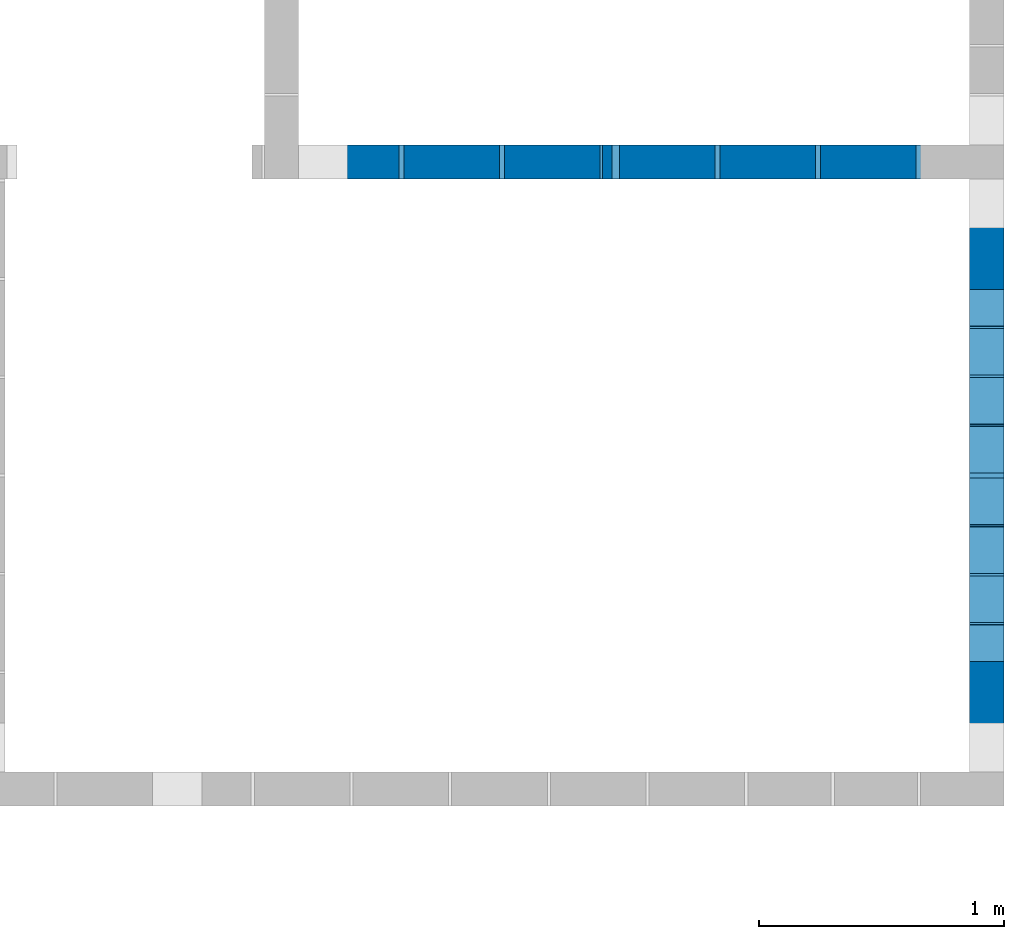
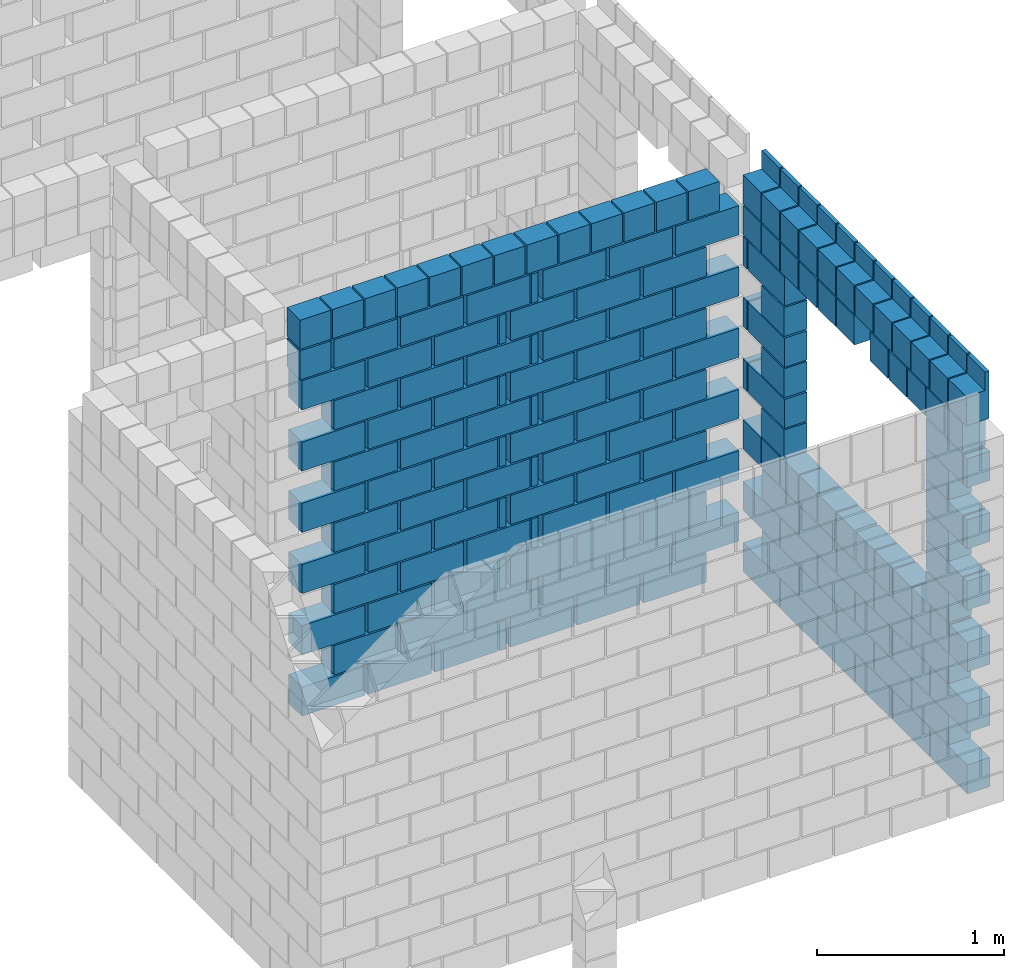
# One storey, part 6 of 12: 2 walls.
"""IFC4 building model written with IfcOpenShell, lengths in centimetres."""

from ifc_helpers import new_model, si_unit, derived_unit, frame, origin, origin_with_axes, origin_2d_with_axis, place, context, project, spatial, rectangle, extrude, element, save


model = new_model("IFC4")

# Units and contexts
model_context = context("Model", 3, precision=1e-05, world=origin_with_axes(), identifier="Body")
ifc_project = project(units=[si_unit("LENGTHUNIT", "METRE", prefix="CENTI"), si_unit("VOLUMEUNIT", "CUBIC_METRE"), si_unit("AREAUNIT", "SQUARE_METRE"), si_unit("POWERUNIT", "WATT"), si_unit("LUMINOUSFLUXUNIT", "LUMEN"), si_unit("ELECTRICCURRENTUNIT", "AMPERE"), si_unit("PRESSUREUNIT", "PASCAL", prefix="KILO"), si_unit("MASSUNIT", "GRAM", prefix="KILO"), si_unit("PLANEANGLEUNIT", "RADIAN"), derived_unit("VOLUMETRICFLOWRATEUNIT", [(si_unit("LENGTHUNIT", "METRE"), 3), (si_unit("TIMEUNIT", "SECOND"), -1)])], contexts=[model_context])

# Site, building, storey
site_placement = place(None, origin_with_axes())
site = spatial("IfcSite", under=ifc_project, at=site_placement)
building_placement = place(site_placement, origin())
building = spatial("IfcBuilding", under=site, at=building_placement)
storey_placement = place(building_placement, origin_with_axes())
storey = spatial("IfcBuildingStorey", under=building, at=storey_placement, Name="PISO", CompositionType="ELEMENT", Elevation=0.0)

# Walls
wall_1_placement = place(storey_placement, frame((692.01, 253.005, 271.0), z_axis=(0.0, 0.0, 1.0), x_axis=(1.0, 0.0, 0.0)))
element("IfcWall", 1, at=wall_1_placement, inside=storey, Name="PAR-PISO-15", context=model_context, shape_type="SolidModel", body=[
    extrude(rectangle(XDim=39.0, YDim=14.0, at=origin_2d_with_axis()), frame((0.0, 100.36071428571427, -271.0), z_axis=(0.0, 0.0, 1.0), x_axis=(0.0, -1.0, 0.0)), (0.0, 0.0, 1.0), 19.0),
    extrude(rectangle(XDim=39.0, YDim=14.0, at=origin_2d_with_axis()), frame((0.0, 60.21642857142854, -271.0), z_axis=(0.0, 0.0, 1.0), x_axis=(0.0, -1.0, 0.0)), (0.0, 0.0, 1.0), 19.0),
    extrude(rectangle(XDim=39.0, YDim=14.0, at=origin_2d_with_axis()), frame((0.0, 20.072142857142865, -271.0), z_axis=(0.0, 0.0, 1.0), x_axis=(0.0, -1.0, 0.0)), (0.0, 0.0, 1.0), 19.0),
    extrude(rectangle(XDim=39.0, YDim=14.0, at=origin_2d_with_axis()), frame((0.0, -20.072142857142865, -271.0), z_axis=(0.0, 0.0, 1.0), x_axis=(0.0, -1.0, 0.0)), (0.0, 0.0, 1.0), 19.0),
    extrude(rectangle(XDim=39.0, YDim=14.0, at=origin_2d_with_axis()), frame((0.0, -60.216428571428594, -271.0), z_axis=(0.0, 0.0, 1.0), x_axis=(0.0, -1.0, 0.0)), (0.0, 0.0, 1.0), 19.0),
    extrude(rectangle(XDim=39.0, YDim=14.0, at=origin_2d_with_axis()), frame((0.0, -100.36071428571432, -271.0), z_axis=(0.0, 0.0, 1.0), x_axis=(0.0, -1.0, 0.0)), (0.0, 0.0, 1.0), 19.0),
    extrude(rectangle(XDim=39.0, YDim=14.0, at=origin_2d_with_axis()), frame((0.0, 80.33666666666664, -251.0), z_axis=(0.0, 0.0, 1.0), x_axis=(0.0, -1.0, 0.0)), (0.0, 0.0, 1.0), 19.0),
    extrude(rectangle(XDim=39.0, YDim=14.0, at=origin_2d_with_axis()), frame((0.0, 40.16833333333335, -251.0), z_axis=(0.0, 0.0, 1.0), x_axis=(0.0, -1.0, 0.0)), (0.0, 0.0, 1.0), 19.0),
    extrude(rectangle(XDim=39.0, YDim=14.0, at=origin_2d_with_axis()), frame((0.0, 0.0, -251.0), z_axis=(0.0, 0.0, 1.0), x_axis=(0.0, -1.0, 0.0)), (0.0, 0.0, 1.0), 19.0),
    extrude(rectangle(XDim=39.0, YDim=14.0, at=origin_2d_with_axis()), frame((0.0, -40.16833333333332, -251.0), z_axis=(0.0, 0.0, 1.0), x_axis=(0.0, -1.0, 0.0)), (0.0, 0.0, 1.0), 19.0),
    extrude(rectangle(XDim=39.0, YDim=14.0, at=origin_2d_with_axis()), frame((0.0, -80.33666666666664, -251.0), z_axis=(0.0, 0.0, 1.0), x_axis=(0.0, -1.0, 0.0)), (0.0, 0.0, 1.0), 19.0),
    extrude(rectangle(XDim=39.0, YDim=14.0, at=origin_2d_with_axis()), frame((0.0, 100.36071428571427, -231.0), z_axis=(0.0, 0.0, 1.0), x_axis=(0.0, -1.0, 0.0)), (0.0, 0.0, 1.0), 19.0),
    extrude(rectangle(XDim=39.0, YDim=14.0, at=origin_2d_with_axis()), frame((0.0, 60.21642857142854, -231.0), z_axis=(0.0, 0.0, 1.0), x_axis=(0.0, -1.0, 0.0)), (0.0, 0.0, 1.0), 19.0),
    extrude(rectangle(XDim=39.0, YDim=14.0, at=origin_2d_with_axis()), frame((0.0, 20.072142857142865, -231.0), z_axis=(0.0, 0.0, 1.0), x_axis=(0.0, -1.0, 0.0)), (0.0, 0.0, 1.0), 19.0),
    extrude(rectangle(XDim=39.0, YDim=14.0, at=origin_2d_with_axis()), frame((0.0, -20.072142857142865, -231.0), z_axis=(0.0, 0.0, 1.0), x_axis=(0.0, -1.0, 0.0)), (0.0, 0.0, 1.0), 19.0),
    extrude(rectangle(XDim=39.0, YDim=14.0, at=origin_2d_with_axis()), frame((0.0, -60.216428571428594, -231.0), z_axis=(0.0, 0.0, 1.0), x_axis=(0.0, -1.0, 0.0)), (0.0, 0.0, 1.0), 19.0),
    extrude(rectangle(XDim=39.0, YDim=14.0, at=origin_2d_with_axis()), frame((0.0, -100.36071428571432, -231.0), z_axis=(0.0, 0.0, 1.0), x_axis=(0.0, -1.0, 0.0)), (0.0, 0.0, 1.0), 19.0),
    extrude(rectangle(XDim=39.0, YDim=14.0, at=origin_2d_with_axis()), frame((0.0, 80.33666666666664, -211.0), z_axis=(0.0, 0.0, 1.0), x_axis=(0.0, -1.0, 0.0)), (0.0, 0.0, 1.0), 19.0),
    extrude(rectangle(XDim=39.0, YDim=14.0, at=origin_2d_with_axis()), frame((0.0, 40.16833333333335, -211.0), z_axis=(0.0, 0.0, 1.0), x_axis=(0.0, -1.0, 0.0)), (0.0, 0.0, 1.0), 19.0),
    extrude(rectangle(XDim=39.0, YDim=14.0, at=origin_2d_with_axis()), frame((0.0, 0.0, -211.0), z_axis=(0.0, 0.0, 1.0), x_axis=(0.0, -1.0, 0.0)), (0.0, 0.0, 1.0), 19.0),
    extrude(rectangle(XDim=39.0, YDim=14.0, at=origin_2d_with_axis()), frame((0.0, -40.16833333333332, -211.0), z_axis=(0.0, 0.0, 1.0), x_axis=(0.0, -1.0, 0.0)), (0.0, 0.0, 1.0), 19.0),
    extrude(rectangle(XDim=39.0, YDim=14.0, at=origin_2d_with_axis()), frame((0.0, -80.33666666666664, -211.0), z_axis=(0.0, 0.0, 1.0), x_axis=(0.0, -1.0, 0.0)), (0.0, 0.0, 1.0), 19.0),
    extrude(rectangle(XDim=19.0, YDim=14.0, at=origin_2d_with_axis()), frame((0.0, 110.505, -191.0), z_axis=(0.0, 0.0, 1.0), x_axis=(0.0, -1.0, 0.0)), (0.0, 0.0, 1.0), 19.0),
    extrude(rectangle(XDim=19.0, YDim=14.0, at=origin_2d_with_axis()), frame((0.0, 90.505, -191.0), z_axis=(0.0, 0.0, 1.0), x_axis=(0.0, -1.0, 0.0)), (0.0, 0.0, 1.0), 19.0),
    extrude(rectangle(XDim=19.0, YDim=14.0, at=origin_2d_with_axis()), frame((0.0, 70.505, -191.0), z_axis=(0.0, 0.0, 1.0), x_axis=(0.0, -1.0, 0.0)), (0.0, 0.0, 1.0), 19.0),
    extrude(rectangle(XDim=19.0, YDim=14.0, at=origin_2d_with_axis()), frame((0.0, 50.505, -191.0), z_axis=(0.0, 0.0, 1.0), x_axis=(0.0, -1.0, 0.0)), (0.0, 0.0, 1.0), 19.0),
    extrude(rectangle(XDim=19.0, YDim=14.0, at=origin_2d_with_axis()), frame((0.0, 30.505, -191.0), z_axis=(0.0, 0.0, 1.0), x_axis=(0.0, -1.0, 0.0)), (0.0, 0.0, 1.0), 19.0),
    extrude(rectangle(XDim=19.0, YDim=14.0, at=origin_2d_with_axis()), frame((0.0, 10.505, -191.0), z_axis=(0.0, 0.0, 1.0), x_axis=(0.0, -1.0, 0.0)), (0.0, 0.0, 1.0), 19.0),
    extrude(rectangle(XDim=19.0, YDim=14.0, at=origin_2d_with_axis()), frame((0.0, -10.505, -191.0), z_axis=(0.0, 0.0, 1.0), x_axis=(0.0, -1.0, 0.0)), (0.0, 0.0, 1.0), 19.0),
    extrude(rectangle(XDim=19.0, YDim=14.0, at=origin_2d_with_axis()), frame((0.0, -30.505, -191.0), z_axis=(0.0, 0.0, 1.0), x_axis=(0.0, -1.0, 0.0)), (0.0, 0.0, 1.0), 19.0),
    extrude(rectangle(XDim=19.0, YDim=14.0, at=origin_2d_with_axis()), frame((0.0, -50.505, -191.0), z_axis=(0.0, 0.0, 1.0), x_axis=(0.0, -1.0, 0.0)), (0.0, 0.0, 1.0), 19.0),
    extrude(rectangle(XDim=19.0, YDim=14.0, at=origin_2d_with_axis()), frame((0.0, -70.505, -191.0), z_axis=(0.0, 0.0, 1.0), x_axis=(0.0, -1.0, 0.0)), (0.0, 0.0, 1.0), 19.0),
    extrude(rectangle(XDim=19.0, YDim=14.0, at=origin_2d_with_axis()), frame((0.0, -90.505, -191.0), z_axis=(0.0, 0.0, 1.0), x_axis=(0.0, -1.0, 0.0)), (0.0, 0.0, 1.0), 19.0),
    extrude(rectangle(XDim=19.0, YDim=14.0, at=origin_2d_with_axis()), frame((0.0, -110.505, -191.0), z_axis=(0.0, 0.0, 1.0), x_axis=(0.0, -1.0, 0.0)), (0.0, 0.0, 1.0), 19.0),
    extrude(rectangle(XDim=24.0, YDim=14.0, at=origin_2d_with_axis()), frame((0.0, -88.005, -171.0), z_axis=(0.0, 0.0, 1.0), x_axis=(0.0, -1.0, 0.0)), (0.0, 0.0, 1.0), 19.0),
    extrude(rectangle(XDim=24.0, YDim=14.0, at=origin_2d_with_axis()), frame((0.0, 88.005, -171.0), z_axis=(0.0, 0.0, 1.0), x_axis=(0.0, -1.0, 0.0)), (0.0, 0.0, 1.0), 19.0),
    extrude(rectangle(XDim=4.0, YDim=14.0, at=origin_2d_with_axis()), frame((0.0, -117.86071428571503, -151.0), z_axis=(0.0, 0.0, 1.0), x_axis=(0.0, -1.0, 0.0)), (0.0, 0.0, 1.0), 19.0),
    extrude(rectangle(XDim=39.0, YDim=14.0, at=origin_2d_with_axis()), frame((0.0, -95.36071428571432, -151.0), z_axis=(0.0, 0.0, 1.0), x_axis=(0.0, -1.0, 0.0)), (0.0, 0.0, 1.0), 19.0),
    extrude(rectangle(XDim=4.0, YDim=14.0, at=origin_2d_with_axis()), frame((0.0, 117.86071428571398, -151.0), z_axis=(0.0, 0.0, 1.0), x_axis=(0.0, -1.0, 0.0)), (0.0, 0.0, 1.0), 19.0),
    extrude(rectangle(XDim=39.0, YDim=14.0, at=origin_2d_with_axis()), frame((0.0, 95.36071428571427, -151.0), z_axis=(0.0, 0.0, 1.0), x_axis=(0.0, -1.0, 0.0)), (0.0, 0.0, 1.0), 19.0),
    extrude(rectangle(XDim=24.0, YDim=14.0, at=origin_2d_with_axis()), frame((0.0, -88.005, -131.0), z_axis=(0.0, 0.0, 1.0), x_axis=(0.0, -1.0, 0.0)), (0.0, 0.0, 1.0), 19.0),
    extrude(rectangle(XDim=24.0, YDim=14.0, at=origin_2d_with_axis()), frame((0.0, 88.005, -131.0), z_axis=(0.0, 0.0, 1.0), x_axis=(0.0, -1.0, 0.0)), (0.0, 0.0, 1.0), 19.0),
    extrude(rectangle(XDim=4.0, YDim=14.0, at=origin_2d_with_axis()), frame((0.0, -117.86071428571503, -111.0), z_axis=(0.0, 0.0, 1.0), x_axis=(0.0, -1.0, 0.0)), (0.0, 0.0, 1.0), 19.0),
    extrude(rectangle(XDim=39.0, YDim=14.0, at=origin_2d_with_axis()), frame((0.0, -95.36071428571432, -111.0), z_axis=(0.0, 0.0, 1.0), x_axis=(0.0, -1.0, 0.0)), (0.0, 0.0, 1.0), 19.0),
    extrude(rectangle(XDim=4.0, YDim=14.0, at=origin_2d_with_axis()), frame((0.0, 117.86071428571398, -111.0), z_axis=(0.0, 0.0, 1.0), x_axis=(0.0, -1.0, 0.0)), (0.0, 0.0, 1.0), 19.0),
    extrude(rectangle(XDim=39.0, YDim=14.0, at=origin_2d_with_axis()), frame((0.0, 95.36071428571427, -111.0), z_axis=(0.0, 0.0, 1.0), x_axis=(0.0, -1.0, 0.0)), (0.0, 0.0, 1.0), 19.0),
    extrude(rectangle(XDim=24.0, YDim=14.0, at=origin_2d_with_axis()), frame((0.0, -88.005, -91.0), z_axis=(0.0, 0.0, 1.0), x_axis=(0.0, -1.0, 0.0)), (0.0, 0.0, 1.0), 19.0),
    extrude(rectangle(XDim=24.0, YDim=14.0, at=origin_2d_with_axis()), frame((0.0, 88.005, -91.0), z_axis=(0.0, 0.0, 1.0), x_axis=(0.0, -1.0, 0.0)), (0.0, 0.0, 1.0), 19.0),
    extrude(rectangle(XDim=4.0, YDim=14.0, at=origin_2d_with_axis()), frame((0.0, -117.86071428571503, -71.0), z_axis=(0.0, 0.0, 1.0), x_axis=(0.0, -1.0, 0.0)), (0.0, 0.0, 1.0), 19.0),
    extrude(rectangle(XDim=39.0, YDim=14.0, at=origin_2d_with_axis()), frame((0.0, -95.36071428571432, -71.0), z_axis=(0.0, 0.0, 1.0), x_axis=(0.0, -1.0, 0.0)), (0.0, 0.0, 1.0), 19.0),
    extrude(rectangle(XDim=4.0, YDim=14.0, at=origin_2d_with_axis()), frame((0.0, 117.86071428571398, -71.0), z_axis=(0.0, 0.0, 1.0), x_axis=(0.0, -1.0, 0.0)), (0.0, 0.0, 1.0), 19.0),
    extrude(rectangle(XDim=39.0, YDim=14.0, at=origin_2d_with_axis()), frame((0.0, 95.36071428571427, -71.0), z_axis=(0.0, 0.0, 1.0), x_axis=(0.0, -1.0, 0.0)), (0.0, 0.0, 1.0), 19.0),
    extrude(rectangle(XDim=19.0, YDim=14.0, at=origin_2d_with_axis()), frame((0.0, 110.505, -51.0), z_axis=(0.0, 0.0, 1.0), x_axis=(0.0, -1.0, 0.0)), (0.0, 0.0, 1.0), 19.0),
    extrude(rectangle(XDim=19.0, YDim=14.0, at=origin_2d_with_axis()), frame((0.0, 90.505, -51.0), z_axis=(0.0, 0.0, 1.0), x_axis=(0.0, -1.0, 0.0)), (0.0, 0.0, 1.0), 19.0),
    extrude(rectangle(XDim=19.0, YDim=14.0, at=origin_2d_with_axis()), frame((0.0, 70.505, -51.0), z_axis=(0.0, 0.0, 1.0), x_axis=(0.0, -1.0, 0.0)), (0.0, 0.0, 1.0), 19.0),
    extrude(rectangle(XDim=19.0, YDim=14.0, at=origin_2d_with_axis()), frame((0.0, 50.505, -51.0), z_axis=(0.0, 0.0, 1.0), x_axis=(0.0, -1.0, 0.0)), (0.0, 0.0, 1.0), 19.0),
    extrude(rectangle(XDim=19.0, YDim=14.0, at=origin_2d_with_axis()), frame((0.0, 30.505, -51.0), z_axis=(0.0, 0.0, 1.0), x_axis=(0.0, -1.0, 0.0)), (0.0, 0.0, 1.0), 19.0),
    extrude(rectangle(XDim=19.0, YDim=14.0, at=origin_2d_with_axis()), frame((0.0, 10.505, -51.0), z_axis=(0.0, 0.0, 1.0), x_axis=(0.0, -1.0, 0.0)), (0.0, 0.0, 1.0), 19.0),
    extrude(rectangle(XDim=19.0, YDim=14.0, at=origin_2d_with_axis()), frame((0.0, -25.505, -51.0), z_axis=(0.0, 0.0, 1.0), x_axis=(0.0, -1.0, 0.0)), (0.0, 0.0, 1.0), 19.0),
    extrude(rectangle(XDim=19.0, YDim=14.0, at=origin_2d_with_axis()), frame((0.0, -45.505, -51.0), z_axis=(0.0, 0.0, 1.0), x_axis=(0.0, -1.0, 0.0)), (0.0, 0.0, 1.0), 19.0),
    extrude(rectangle(XDim=19.0, YDim=14.0, at=origin_2d_with_axis()), frame((0.0, -65.505, -51.0), z_axis=(0.0, 0.0, 1.0), x_axis=(0.0, -1.0, 0.0)), (0.0, 0.0, 1.0), 19.0),
    extrude(rectangle(XDim=19.0, YDim=14.0, at=origin_2d_with_axis()), frame((0.0, -85.505, -51.0), z_axis=(0.0, 0.0, 1.0), x_axis=(0.0, -1.0, 0.0)), (0.0, 0.0, 1.0), 19.0),
    extrude(rectangle(XDim=19.0, YDim=14.0, at=origin_2d_with_axis()), frame((0.0, -105.505, -51.0), z_axis=(0.0, 0.0, 1.0), x_axis=(0.0, -1.0, 0.0)), (0.0, 0.0, 1.0), 19.0),
    extrude(rectangle(XDim=19.0, YDim=2.5, at=origin_2d_with_axis()), frame((5.75, 110.505, -12.0), z_axis=(0.0, 0.0, 1.0), x_axis=(0.0, -1.0, 0.0)), (0.0, 0.0, 1.0), 12.0),
    extrude(rectangle(XDim=19.0, YDim=14.0, at=origin_2d_with_axis()), frame((0.0, 110.505, -31.0), z_axis=(0.0, 0.0, 1.0), x_axis=(0.0, -1.0, 0.0)), (0.0, 0.0, 1.0), 19.0),
    extrude(rectangle(XDim=19.0, YDim=2.5, at=origin_2d_with_axis()), frame((5.75, 90.505, -12.0), z_axis=(0.0, 0.0, 1.0), x_axis=(0.0, -1.0, 0.0)), (0.0, 0.0, 1.0), 12.0),
    extrude(rectangle(XDim=19.0, YDim=14.0, at=origin_2d_with_axis()), frame((0.0, 90.505, -31.0), z_axis=(0.0, 0.0, 1.0), x_axis=(0.0, -1.0, 0.0)), (0.0, 0.0, 1.0), 19.0),
    extrude(rectangle(XDim=19.0, YDim=2.5, at=origin_2d_with_axis()), frame((5.75, 70.505, -12.0), z_axis=(0.0, 0.0, 1.0), x_axis=(0.0, -1.0, 0.0)), (0.0, 0.0, 1.0), 12.0),
    extrude(rectangle(XDim=19.0, YDim=14.0, at=origin_2d_with_axis()), frame((0.0, 70.505, -31.0), z_axis=(0.0, 0.0, 1.0), x_axis=(0.0, -1.0, 0.0)), (0.0, 0.0, 1.0), 19.0),
    extrude(rectangle(XDim=19.0, YDim=2.5, at=origin_2d_with_axis()), frame((5.75, 50.505, -12.0), z_axis=(0.0, 0.0, 1.0), x_axis=(0.0, -1.0, 0.0)), (0.0, 0.0, 1.0), 12.0),
    extrude(rectangle(XDim=19.0, YDim=14.0, at=origin_2d_with_axis()), frame((0.0, 50.505, -31.0), z_axis=(0.0, 0.0, 1.0), x_axis=(0.0, -1.0, 0.0)), (0.0, 0.0, 1.0), 19.0),
    extrude(rectangle(XDim=19.0, YDim=2.5, at=origin_2d_with_axis()), frame((5.75, 30.505, -12.0), z_axis=(0.0, 0.0, 1.0), x_axis=(0.0, -1.0, 0.0)), (0.0, 0.0, 1.0), 12.0),
    extrude(rectangle(XDim=19.0, YDim=14.0, at=origin_2d_with_axis()), frame((0.0, 30.505, -31.0), z_axis=(0.0, 0.0, 1.0), x_axis=(0.0, -1.0, 0.0)), (0.0, 0.0, 1.0), 19.0),
    extrude(rectangle(XDim=19.0, YDim=2.5, at=origin_2d_with_axis()), frame((5.75, 10.505, -12.0), z_axis=(0.0, 0.0, 1.0), x_axis=(0.0, -1.0, 0.0)), (0.0, 0.0, 1.0), 12.0),
    extrude(rectangle(XDim=19.0, YDim=14.0, at=origin_2d_with_axis()), frame((0.0, 10.505, -31.0), z_axis=(0.0, 0.0, 1.0), x_axis=(0.0, -1.0, 0.0)), (0.0, 0.0, 1.0), 19.0),
    extrude(rectangle(XDim=19.0, YDim=2.5, at=origin_2d_with_axis()), frame((5.75, -9.495, -12.0), z_axis=(0.0, 0.0, 1.0), x_axis=(0.0, -1.0, 0.0)), (0.0, 0.0, 1.0), 12.0),
    extrude(rectangle(XDim=19.0, YDim=14.0, at=origin_2d_with_axis()), frame((0.0, -9.495, -31.0), z_axis=(0.0, 0.0, 1.0), x_axis=(0.0, -1.0, 0.0)), (0.0, 0.0, 1.0), 19.0),
    extrude(rectangle(XDim=19.0, YDim=2.5, at=origin_2d_with_axis()), frame((5.75, -29.495, -12.0), z_axis=(0.0, 0.0, 1.0), x_axis=(0.0, -1.0, 0.0)), (0.0, 0.0, 1.0), 12.0),
    extrude(rectangle(XDim=19.0, YDim=14.0, at=origin_2d_with_axis()), frame((0.0, -29.495, -31.0), z_axis=(0.0, 0.0, 1.0), x_axis=(0.0, -1.0, 0.0)), (0.0, 0.0, 1.0), 19.0),
    extrude(rectangle(XDim=19.0, YDim=2.5, at=origin_2d_with_axis()), frame((5.75, -49.495, -12.0), z_axis=(0.0, 0.0, 1.0), x_axis=(0.0, -1.0, 0.0)), (0.0, 0.0, 1.0), 12.0),
    extrude(rectangle(XDim=19.0, YDim=14.0, at=origin_2d_with_axis()), frame((0.0, -49.495, -31.0), z_axis=(0.0, 0.0, 1.0), x_axis=(0.0, -1.0, 0.0)), (0.0, 0.0, 1.0), 19.0),
    extrude(rectangle(XDim=19.0, YDim=2.5, at=origin_2d_with_axis()), frame((5.75, -69.495, -12.0), z_axis=(0.0, 0.0, 1.0), x_axis=(0.0, -1.0, 0.0)), (0.0, 0.0, 1.0), 12.0),
    extrude(rectangle(XDim=19.0, YDim=14.0, at=origin_2d_with_axis()), frame((0.0, -69.495, -31.0), z_axis=(0.0, 0.0, 1.0), x_axis=(0.0, -1.0, 0.0)), (0.0, 0.0, 1.0), 19.0),
    extrude(rectangle(XDim=19.0, YDim=2.5, at=origin_2d_with_axis()), frame((5.75, -89.495, -12.0), z_axis=(0.0, 0.0, 1.0), x_axis=(0.0, -1.0, 0.0)), (0.0, 0.0, 1.0), 12.0),
    extrude(rectangle(XDim=19.0, YDim=14.0, at=origin_2d_with_axis()), frame((0.0, -89.495, -31.0), z_axis=(0.0, 0.0, 1.0), x_axis=(0.0, -1.0, 0.0)), (0.0, 0.0, 1.0), 19.0),
    extrude(rectangle(XDim=19.0, YDim=2.5, at=origin_2d_with_axis()), frame((5.75, -109.495, -12.0), z_axis=(0.0, 0.0, 1.0), x_axis=(0.0, -1.0, 0.0)), (0.0, 0.0, 1.0), 12.0),
    extrude(rectangle(XDim=19.0, YDim=14.0, at=origin_2d_with_axis()), frame((0.0, -109.495, -31.0), z_axis=(0.0, 0.0, 1.0), x_axis=(0.0, -1.0, 0.0)), (0.0, 0.0, 1.0), 19.0),
])
wall_2_placement = place(storey_placement, frame((547.51, 381.01, 259.0), z_axis=(0.0, 0.0, 1.0), x_axis=(1.0, 0.0, 0.0)))
element("IfcWall", 2, at=wall_2_placement, inside=storey, Name="PAR-PISO-6", context=model_context, shape_type="SolidModel", body=[
    extrude(rectangle(XDim=39.0, YDim=14.0, at=origin_2d_with_axis()), frame((-115.0, 0.0, -259.0), z_axis=(0.0, 0.0, 1.0), x_axis=(1.0, 0.0, 0.0)), (0.0, 0.0, 1.0), 19.0),
    extrude(rectangle(XDim=39.0, YDim=14.0, at=origin_2d_with_axis()), frame((-74.0, 0.0, -259.0), z_axis=(0.0, 0.0, 1.0), x_axis=(1.0, 0.0, 0.0)), (0.0, 0.0, 1.0), 19.0),
    extrude(rectangle(XDim=39.0, YDim=14.0, at=origin_2d_with_axis()), frame((-33.0, 0.0, -259.0), z_axis=(0.0, 0.0, 1.0), x_axis=(1.0, 0.0, 0.0)), (0.0, 0.0, 1.0), 19.0),
    extrude(rectangle(XDim=39.0, YDim=14.0, at=origin_2d_with_axis()), frame((14.0, 0.0, -259.0), z_axis=(0.0, 0.0, 1.0), x_axis=(1.0, 0.0, 0.0)), (0.0, 0.0, 1.0), 19.0),
    extrude(rectangle(XDim=39.0, YDim=14.0, at=origin_2d_with_axis()), frame((55.0, 0.0, -259.0), z_axis=(0.0, 0.0, 1.0), x_axis=(1.0, 0.0, 0.0)), (0.0, 0.0, 1.0), 19.0),
    extrude(rectangle(XDim=39.0, YDim=14.0, at=origin_2d_with_axis()), frame((96.0, 0.0, -259.0), z_axis=(0.0, 0.0, 1.0), x_axis=(1.0, 0.0, 0.0)), (0.0, 0.0, 1.0), 19.0),
    extrude(rectangle(XDim=4.0, YDim=14.0, at=origin_2d_with_axis()), frame((-10.5, 0.0, -259.0), z_axis=(0.0, 0.0, 1.0), x_axis=(1.0, 0.0, 0.0)), (0.0, 0.0, 1.0), 19.0),
    extrude(rectangle(XDim=39.0, YDim=14.0, at=origin_2d_with_axis()), frame((-95.0, 0.0, -239.0), z_axis=(0.0, 0.0, 1.0), x_axis=(1.0, 0.0, 0.0)), (0.0, 0.0, 1.0), 19.0),
    extrude(rectangle(XDim=39.0, YDim=14.0, at=origin_2d_with_axis()), frame((-54.0, 0.0, -239.0), z_axis=(0.0, 0.0, 1.0), x_axis=(1.0, 0.0, 0.0)), (0.0, 0.0, 1.0), 19.0),
    extrude(rectangle(XDim=39.0, YDim=14.0, at=origin_2d_with_axis()), frame((-13.0, 0.0, -239.0), z_axis=(0.0, 0.0, 1.0), x_axis=(1.0, 0.0, 0.0)), (0.0, 0.0, 1.0), 19.0),
    extrude(rectangle(XDim=39.0, YDim=14.0, at=origin_2d_with_axis()), frame((34.0, 0.0, -239.0), z_axis=(0.0, 0.0, 1.0), x_axis=(1.0, 0.0, 0.0)), (0.0, 0.0, 1.0), 19.0),
    extrude(rectangle(XDim=39.0, YDim=14.0, at=origin_2d_with_axis()), frame((75.0, 0.0, -239.0), z_axis=(0.0, 0.0, 1.0), x_axis=(1.0, 0.0, 0.0)), (0.0, 0.0, 1.0), 19.0),
    extrude(rectangle(XDim=39.0, YDim=14.0, at=origin_2d_with_axis()), frame((116.0, 0.0, -239.0), z_axis=(0.0, 0.0, 1.0), x_axis=(1.0, 0.0, 0.0)), (0.0, 0.0, 1.0), 19.0),
    extrude(rectangle(XDim=4.0, YDim=14.0, at=origin_2d_with_axis()), frame((9.5, 0.0, -239.0), z_axis=(0.0, 0.0, 1.0), x_axis=(1.0, 0.0, 0.0)), (0.0, 0.0, 1.0), 19.0),
    extrude(rectangle(XDim=39.0, YDim=14.0, at=origin_2d_with_axis()), frame((-115.0, 0.0, -219.0), z_axis=(0.0, 0.0, 1.0), x_axis=(1.0, 0.0, 0.0)), (0.0, 0.0, 1.0), 19.0),
    extrude(rectangle(XDim=39.0, YDim=14.0, at=origin_2d_with_axis()), frame((-74.0, 0.0, -219.0), z_axis=(0.0, 0.0, 1.0), x_axis=(1.0, 0.0, 0.0)), (0.0, 0.0, 1.0), 19.0),
    extrude(rectangle(XDim=39.0, YDim=14.0, at=origin_2d_with_axis()), frame((-33.0, 0.0, -219.0), z_axis=(0.0, 0.0, 1.0), x_axis=(1.0, 0.0, 0.0)), (0.0, 0.0, 1.0), 19.0),
    extrude(rectangle(XDim=39.0, YDim=14.0, at=origin_2d_with_axis()), frame((14.0, 0.0, -219.0), z_axis=(0.0, 0.0, 1.0), x_axis=(1.0, 0.0, 0.0)), (0.0, 0.0, 1.0), 19.0),
    extrude(rectangle(XDim=39.0, YDim=14.0, at=origin_2d_with_axis()), frame((55.0, 0.0, -219.0), z_axis=(0.0, 0.0, 1.0), x_axis=(1.0, 0.0, 0.0)), (0.0, 0.0, 1.0), 19.0),
    extrude(rectangle(XDim=39.0, YDim=14.0, at=origin_2d_with_axis()), frame((96.0, 0.0, -219.0), z_axis=(0.0, 0.0, 1.0), x_axis=(1.0, 0.0, 0.0)), (0.0, 0.0, 1.0), 19.0),
    extrude(rectangle(XDim=4.0, YDim=14.0, at=origin_2d_with_axis()), frame((-10.5, 0.0, -219.0), z_axis=(0.0, 0.0, 1.0), x_axis=(1.0, 0.0, 0.0)), (0.0, 0.0, 1.0), 19.0),
    extrude(rectangle(XDim=39.0, YDim=14.0, at=origin_2d_with_axis()), frame((-95.0, 0.0, -199.0), z_axis=(0.0, 0.0, 1.0), x_axis=(1.0, 0.0, 0.0)), (0.0, 0.0, 1.0), 19.0),
    extrude(rectangle(XDim=39.0, YDim=14.0, at=origin_2d_with_axis()), frame((-54.0, 0.0, -199.0), z_axis=(0.0, 0.0, 1.0), x_axis=(1.0, 0.0, 0.0)), (0.0, 0.0, 1.0), 19.0),
    extrude(rectangle(XDim=39.0, YDim=14.0, at=origin_2d_with_axis()), frame((-13.0, 0.0, -199.0), z_axis=(0.0, 0.0, 1.0), x_axis=(1.0, 0.0, 0.0)), (0.0, 0.0, 1.0), 19.0),
    extrude(rectangle(XDim=39.0, YDim=14.0, at=origin_2d_with_axis()), frame((34.0, 0.0, -199.0), z_axis=(0.0, 0.0, 1.0), x_axis=(1.0, 0.0, 0.0)), (0.0, 0.0, 1.0), 19.0),
    extrude(rectangle(XDim=39.0, YDim=14.0, at=origin_2d_with_axis()), frame((75.0, 0.0, -199.0), z_axis=(0.0, 0.0, 1.0), x_axis=(1.0, 0.0, 0.0)), (0.0, 0.0, 1.0), 19.0),
    extrude(rectangle(XDim=39.0, YDim=14.0, at=origin_2d_with_axis()), frame((116.0, 0.0, -199.0), z_axis=(0.0, 0.0, 1.0), x_axis=(1.0, 0.0, 0.0)), (0.0, 0.0, 1.0), 19.0),
    extrude(rectangle(XDim=4.0, YDim=14.0, at=origin_2d_with_axis()), frame((9.5, 0.0, -199.0), z_axis=(0.0, 0.0, 1.0), x_axis=(1.0, 0.0, 0.0)), (0.0, 0.0, 1.0), 19.0),
    extrude(rectangle(XDim=39.0, YDim=14.0, at=origin_2d_with_axis()), frame((-115.0, 0.0, -179.0), z_axis=(0.0, 0.0, 1.0), x_axis=(1.0, 0.0, 0.0)), (0.0, 0.0, 1.0), 19.0),
    extrude(rectangle(XDim=39.0, YDim=14.0, at=origin_2d_with_axis()), frame((-74.0, 0.0, -179.0), z_axis=(0.0, 0.0, 1.0), x_axis=(1.0, 0.0, 0.0)), (0.0, 0.0, 1.0), 19.0),
    extrude(rectangle(XDim=39.0, YDim=14.0, at=origin_2d_with_axis()), frame((-33.0, 0.0, -179.0), z_axis=(0.0, 0.0, 1.0), x_axis=(1.0, 0.0, 0.0)), (0.0, 0.0, 1.0), 19.0),
    extrude(rectangle(XDim=39.0, YDim=14.0, at=origin_2d_with_axis()), frame((14.0, 0.0, -179.0), z_axis=(0.0, 0.0, 1.0), x_axis=(1.0, 0.0, 0.0)), (0.0, 0.0, 1.0), 19.0),
    extrude(rectangle(XDim=39.0, YDim=14.0, at=origin_2d_with_axis()), frame((55.0, 0.0, -179.0), z_axis=(0.0, 0.0, 1.0), x_axis=(1.0, 0.0, 0.0)), (0.0, 0.0, 1.0), 19.0),
    extrude(rectangle(XDim=39.0, YDim=14.0, at=origin_2d_with_axis()), frame((96.0, 0.0, -179.0), z_axis=(0.0, 0.0, 1.0), x_axis=(1.0, 0.0, 0.0)), (0.0, 0.0, 1.0), 19.0),
    extrude(rectangle(XDim=4.0, YDim=14.0, at=origin_2d_with_axis()), frame((-10.5, 0.0, -179.0), z_axis=(0.0, 0.0, 1.0), x_axis=(1.0, 0.0, 0.0)), (0.0, 0.0, 1.0), 19.0),
    extrude(rectangle(XDim=39.0, YDim=14.0, at=origin_2d_with_axis()), frame((-95.0, 0.0, -159.0), z_axis=(0.0, 0.0, 1.0), x_axis=(1.0, 0.0, 0.0)), (0.0, 0.0, 1.0), 19.0),
    extrude(rectangle(XDim=39.0, YDim=14.0, at=origin_2d_with_axis()), frame((-54.0, 0.0, -159.0), z_axis=(0.0, 0.0, 1.0), x_axis=(1.0, 0.0, 0.0)), (0.0, 0.0, 1.0), 19.0),
    extrude(rectangle(XDim=39.0, YDim=14.0, at=origin_2d_with_axis()), frame((-13.0, 0.0, -159.0), z_axis=(0.0, 0.0, 1.0), x_axis=(1.0, 0.0, 0.0)), (0.0, 0.0, 1.0), 19.0),
    extrude(rectangle(XDim=39.0, YDim=14.0, at=origin_2d_with_axis()), frame((34.0, 0.0, -159.0), z_axis=(0.0, 0.0, 1.0), x_axis=(1.0, 0.0, 0.0)), (0.0, 0.0, 1.0), 19.0),
    extrude(rectangle(XDim=39.0, YDim=14.0, at=origin_2d_with_axis()), frame((75.0, 0.0, -159.0), z_axis=(0.0, 0.0, 1.0), x_axis=(1.0, 0.0, 0.0)), (0.0, 0.0, 1.0), 19.0),
    extrude(rectangle(XDim=39.0, YDim=14.0, at=origin_2d_with_axis()), frame((116.0, 0.0, -159.0), z_axis=(0.0, 0.0, 1.0), x_axis=(1.0, 0.0, 0.0)), (0.0, 0.0, 1.0), 19.0),
    extrude(rectangle(XDim=4.0, YDim=14.0, at=origin_2d_with_axis()), frame((9.5, 0.0, -159.0), z_axis=(0.0, 0.0, 1.0), x_axis=(1.0, 0.0, 0.0)), (0.0, 0.0, 1.0), 19.0),
    extrude(rectangle(XDim=39.0, YDim=14.0, at=origin_2d_with_axis()), frame((-115.0, 0.0, -139.0), z_axis=(0.0, 0.0, 1.0), x_axis=(1.0, 0.0, 0.0)), (0.0, 0.0, 1.0), 19.0),
    extrude(rectangle(XDim=39.0, YDim=14.0, at=origin_2d_with_axis()), frame((-74.0, 0.0, -139.0), z_axis=(0.0, 0.0, 1.0), x_axis=(1.0, 0.0, 0.0)), (0.0, 0.0, 1.0), 19.0),
    extrude(rectangle(XDim=39.0, YDim=14.0, at=origin_2d_with_axis()), frame((-33.0, 0.0, -139.0), z_axis=(0.0, 0.0, 1.0), x_axis=(1.0, 0.0, 0.0)), (0.0, 0.0, 1.0), 19.0),
    extrude(rectangle(XDim=39.0, YDim=14.0, at=origin_2d_with_axis()), frame((14.0, 0.0, -139.0), z_axis=(0.0, 0.0, 1.0), x_axis=(1.0, 0.0, 0.0)), (0.0, 0.0, 1.0), 19.0),
    extrude(rectangle(XDim=39.0, YDim=14.0, at=origin_2d_with_axis()), frame((55.0, 0.0, -139.0), z_axis=(0.0, 0.0, 1.0), x_axis=(1.0, 0.0, 0.0)), (0.0, 0.0, 1.0), 19.0),
    extrude(rectangle(XDim=39.0, YDim=14.0, at=origin_2d_with_axis()), frame((96.0, 0.0, -139.0), z_axis=(0.0, 0.0, 1.0), x_axis=(1.0, 0.0, 0.0)), (0.0, 0.0, 1.0), 19.0),
    extrude(rectangle(XDim=4.0, YDim=14.0, at=origin_2d_with_axis()), frame((-10.5, 0.0, -139.0), z_axis=(0.0, 0.0, 1.0), x_axis=(1.0, 0.0, 0.0)), (0.0, 0.0, 1.0), 19.0),
    extrude(rectangle(XDim=39.0, YDim=14.0, at=origin_2d_with_axis()), frame((-95.0, 0.0, -119.0), z_axis=(0.0, 0.0, 1.0), x_axis=(1.0, 0.0, 0.0)), (0.0, 0.0, 1.0), 19.0),
    extrude(rectangle(XDim=39.0, YDim=14.0, at=origin_2d_with_axis()), frame((-54.0, 0.0, -119.0), z_axis=(0.0, 0.0, 1.0), x_axis=(1.0, 0.0, 0.0)), (0.0, 0.0, 1.0), 19.0),
    extrude(rectangle(XDim=39.0, YDim=14.0, at=origin_2d_with_axis()), frame((-13.0, 0.0, -119.0), z_axis=(0.0, 0.0, 1.0), x_axis=(1.0, 0.0, 0.0)), (0.0, 0.0, 1.0), 19.0),
    extrude(rectangle(XDim=39.0, YDim=14.0, at=origin_2d_with_axis()), frame((34.0, 0.0, -119.0), z_axis=(0.0, 0.0, 1.0), x_axis=(1.0, 0.0, 0.0)), (0.0, 0.0, 1.0), 19.0),
    extrude(rectangle(XDim=39.0, YDim=14.0, at=origin_2d_with_axis()), frame((75.0, 0.0, -119.0), z_axis=(0.0, 0.0, 1.0), x_axis=(1.0, 0.0, 0.0)), (0.0, 0.0, 1.0), 19.0),
    extrude(rectangle(XDim=39.0, YDim=14.0, at=origin_2d_with_axis()), frame((116.0, 0.0, -119.0), z_axis=(0.0, 0.0, 1.0), x_axis=(1.0, 0.0, 0.0)), (0.0, 0.0, 1.0), 19.0),
    extrude(rectangle(XDim=4.0, YDim=14.0, at=origin_2d_with_axis()), frame((9.5, 0.0, -119.0), z_axis=(0.0, 0.0, 1.0), x_axis=(1.0, 0.0, 0.0)), (0.0, 0.0, 1.0), 19.0),
    extrude(rectangle(XDim=39.0, YDim=14.0, at=origin_2d_with_axis()), frame((-115.0, 0.0, -99.0), z_axis=(0.0, 0.0, 1.0), x_axis=(1.0, 0.0, 0.0)), (0.0, 0.0, 1.0), 19.0),
    extrude(rectangle(XDim=39.0, YDim=14.0, at=origin_2d_with_axis()), frame((-74.0, 0.0, -99.0), z_axis=(0.0, 0.0, 1.0), x_axis=(1.0, 0.0, 0.0)), (0.0, 0.0, 1.0), 19.0),
    extrude(rectangle(XDim=39.0, YDim=14.0, at=origin_2d_with_axis()), frame((-33.0, 0.0, -99.0), z_axis=(0.0, 0.0, 1.0), x_axis=(1.0, 0.0, 0.0)), (0.0, 0.0, 1.0), 19.0),
    extrude(rectangle(XDim=39.0, YDim=14.0, at=origin_2d_with_axis()), frame((14.0, 0.0, -99.0), z_axis=(0.0, 0.0, 1.0), x_axis=(1.0, 0.0, 0.0)), (0.0, 0.0, 1.0), 19.0),
    extrude(rectangle(XDim=39.0, YDim=14.0, at=origin_2d_with_axis()), frame((55.0, 0.0, -99.0), z_axis=(0.0, 0.0, 1.0), x_axis=(1.0, 0.0, 0.0)), (0.0, 0.0, 1.0), 19.0),
    extrude(rectangle(XDim=39.0, YDim=14.0, at=origin_2d_with_axis()), frame((96.0, 0.0, -99.0), z_axis=(0.0, 0.0, 1.0), x_axis=(1.0, 0.0, 0.0)), (0.0, 0.0, 1.0), 19.0),
    extrude(rectangle(XDim=4.0, YDim=14.0, at=origin_2d_with_axis()), frame((-10.5, 0.0, -99.0), z_axis=(0.0, 0.0, 1.0), x_axis=(1.0, 0.0, 0.0)), (0.0, 0.0, 1.0), 19.0),
    extrude(rectangle(XDim=39.0, YDim=14.0, at=origin_2d_with_axis()), frame((-95.0, 0.0, -79.0), z_axis=(0.0, 0.0, 1.0), x_axis=(1.0, 0.0, 0.0)), (0.0, 0.0, 1.0), 19.0),
    extrude(rectangle(XDim=39.0, YDim=14.0, at=origin_2d_with_axis()), frame((-54.0, 0.0, -79.0), z_axis=(0.0, 0.0, 1.0), x_axis=(1.0, 0.0, 0.0)), (0.0, 0.0, 1.0), 19.0),
    extrude(rectangle(XDim=39.0, YDim=14.0, at=origin_2d_with_axis()), frame((-13.0, 0.0, -79.0), z_axis=(0.0, 0.0, 1.0), x_axis=(1.0, 0.0, 0.0)), (0.0, 0.0, 1.0), 19.0),
    extrude(rectangle(XDim=39.0, YDim=14.0, at=origin_2d_with_axis()), frame((34.0, 0.0, -79.0), z_axis=(0.0, 0.0, 1.0), x_axis=(1.0, 0.0, 0.0)), (0.0, 0.0, 1.0), 19.0),
    extrude(rectangle(XDim=39.0, YDim=14.0, at=origin_2d_with_axis()), frame((75.0, 0.0, -79.0), z_axis=(0.0, 0.0, 1.0), x_axis=(1.0, 0.0, 0.0)), (0.0, 0.0, 1.0), 19.0),
    extrude(rectangle(XDim=39.0, YDim=14.0, at=origin_2d_with_axis()), frame((116.0, 0.0, -79.0), z_axis=(0.0, 0.0, 1.0), x_axis=(1.0, 0.0, 0.0)), (0.0, 0.0, 1.0), 19.0),
    extrude(rectangle(XDim=4.0, YDim=14.0, at=origin_2d_with_axis()), frame((9.5, 0.0, -79.0), z_axis=(0.0, 0.0, 1.0), x_axis=(1.0, 0.0, 0.0)), (0.0, 0.0, 1.0), 19.0),
    extrude(rectangle(XDim=39.0, YDim=14.0, at=origin_2d_with_axis()), frame((-115.0, 0.0, -59.0), z_axis=(0.0, 0.0, 1.0), x_axis=(1.0, 0.0, 0.0)), (0.0, 0.0, 1.0), 19.0),
    extrude(rectangle(XDim=39.0, YDim=14.0, at=origin_2d_with_axis()), frame((-74.0, 0.0, -59.0), z_axis=(0.0, 0.0, 1.0), x_axis=(1.0, 0.0, 0.0)), (0.0, 0.0, 1.0), 19.0),
    extrude(rectangle(XDim=39.0, YDim=14.0, at=origin_2d_with_axis()), frame((-33.0, 0.0, -59.0), z_axis=(0.0, 0.0, 1.0), x_axis=(1.0, 0.0, 0.0)), (0.0, 0.0, 1.0), 19.0),
    extrude(rectangle(XDim=39.0, YDim=14.0, at=origin_2d_with_axis()), frame((14.0, 0.0, -59.0), z_axis=(0.0, 0.0, 1.0), x_axis=(1.0, 0.0, 0.0)), (0.0, 0.0, 1.0), 19.0),
    extrude(rectangle(XDim=39.0, YDim=14.0, at=origin_2d_with_axis()), frame((55.0, 0.0, -59.0), z_axis=(0.0, 0.0, 1.0), x_axis=(1.0, 0.0, 0.0)), (0.0, 0.0, 1.0), 19.0),
    extrude(rectangle(XDim=39.0, YDim=14.0, at=origin_2d_with_axis()), frame((96.0, 0.0, -59.0), z_axis=(0.0, 0.0, 1.0), x_axis=(1.0, 0.0, 0.0)), (0.0, 0.0, 1.0), 19.0),
    extrude(rectangle(XDim=4.0, YDim=14.0, at=origin_2d_with_axis()), frame((-10.5, 0.0, -59.0), z_axis=(0.0, 0.0, 1.0), x_axis=(1.0, 0.0, 0.0)), (0.0, 0.0, 1.0), 19.0),
    extrude(rectangle(XDim=39.0, YDim=14.0, at=origin_2d_with_axis()), frame((-95.0, 0.0, -39.0), z_axis=(0.0, 0.0, 1.0), x_axis=(1.0, 0.0, 0.0)), (0.0, 0.0, 1.0), 19.0),
    extrude(rectangle(XDim=39.0, YDim=14.0, at=origin_2d_with_axis()), frame((-54.0, 0.0, -39.0), z_axis=(0.0, 0.0, 1.0), x_axis=(1.0, 0.0, 0.0)), (0.0, 0.0, 1.0), 19.0),
    extrude(rectangle(XDim=39.0, YDim=14.0, at=origin_2d_with_axis()), frame((-13.0, 0.0, -39.0), z_axis=(0.0, 0.0, 1.0), x_axis=(1.0, 0.0, 0.0)), (0.0, 0.0, 1.0), 19.0),
    extrude(rectangle(XDim=39.0, YDim=14.0, at=origin_2d_with_axis()), frame((34.0, 0.0, -39.0), z_axis=(0.0, 0.0, 1.0), x_axis=(1.0, 0.0, 0.0)), (0.0, 0.0, 1.0), 19.0),
    extrude(rectangle(XDim=39.0, YDim=14.0, at=origin_2d_with_axis()), frame((75.0, 0.0, -39.0), z_axis=(0.0, 0.0, 1.0), x_axis=(1.0, 0.0, 0.0)), (0.0, 0.0, 1.0), 19.0),
    extrude(rectangle(XDim=39.0, YDim=14.0, at=origin_2d_with_axis()), frame((116.0, 0.0, -39.0), z_axis=(0.0, 0.0, 1.0), x_axis=(1.0, 0.0, 0.0)), (0.0, 0.0, 1.0), 19.0),
    extrude(rectangle(XDim=4.0, YDim=14.0, at=origin_2d_with_axis()), frame((9.5, 0.0, -39.0), z_axis=(0.0, 0.0, 1.0), x_axis=(1.0, 0.0, 0.0)), (0.0, 0.0, 1.0), 19.0),
    extrude(rectangle(XDim=19.0, YDim=14.0, at=origin_2d_with_axis()), frame((-126.0, 0.0, -39.0), z_axis=(0.0, 0.0, 1.0), x_axis=(1.0, 0.0, 0.0)), (0.0, 0.0, 1.0), 19.0),
    extrude(rectangle(XDim=19.0, YDim=14.0, at=origin_2d_with_axis()), frame((-126.0, 0.0, -19.0), z_axis=(0.0, 0.0, 1.0), x_axis=(1.0, 0.0, 0.0)), (0.0, 0.0, 1.0), 19.0),
    extrude(rectangle(XDim=19.0, YDim=14.0, at=origin_2d_with_axis()), frame((-106.0, 0.0, -19.0), z_axis=(0.0, 0.0, 1.0), x_axis=(1.0, 0.0, 0.0)), (0.0, 0.0, 1.0), 19.0),
    extrude(rectangle(XDim=19.0, YDim=14.0, at=origin_2d_with_axis()), frame((-86.0, 0.0, -19.0), z_axis=(0.0, 0.0, 1.0), x_axis=(1.0, 0.0, 0.0)), (0.0, 0.0, 1.0), 19.0),
    extrude(rectangle(XDim=19.0, YDim=14.0, at=origin_2d_with_axis()), frame((-66.0, 0.0, -19.0), z_axis=(0.0, 0.0, 1.0), x_axis=(1.0, 0.0, 0.0)), (0.0, 0.0, 1.0), 19.0),
    extrude(rectangle(XDim=19.0, YDim=14.0, at=origin_2d_with_axis()), frame((-46.0, 0.0, -19.0), z_axis=(0.0, 0.0, 1.0), x_axis=(1.0, 0.0, 0.0)), (0.0, 0.0, 1.0), 19.0),
    extrude(rectangle(XDim=19.0, YDim=14.0, at=origin_2d_with_axis()), frame((-26.0, 0.0, -19.0), z_axis=(0.0, 0.0, 1.0), x_axis=(1.0, 0.0, 0.0)), (0.0, 0.0, 1.0), 19.0),
    extrude(rectangle(XDim=19.0, YDim=14.0, at=origin_2d_with_axis()), frame((-6.0, 0.0, -19.0), z_axis=(0.0, 0.0, 1.0), x_axis=(1.0, 0.0, 0.0)), (0.0, 0.0, 1.0), 19.0),
    extrude(rectangle(XDim=19.0, YDim=14.0, at=origin_2d_with_axis()), frame((14.0, 0.0, -19.0), z_axis=(0.0, 0.0, 1.0), x_axis=(1.0, 0.0, 0.0)), (0.0, 0.0, 1.0), 19.0),
    extrude(rectangle(XDim=19.0, YDim=14.0, at=origin_2d_with_axis()), frame((34.0, 0.0, -19.0), z_axis=(0.0, 0.0, 1.0), x_axis=(1.0, 0.0, 0.0)), (0.0, 0.0, 1.0), 19.0),
    extrude(rectangle(XDim=19.0, YDim=14.0, at=origin_2d_with_axis()), frame((54.0, 0.0, -19.0), z_axis=(0.0, 0.0, 1.0), x_axis=(1.0, 0.0, 0.0)), (0.0, 0.0, 1.0), 19.0),
    extrude(rectangle(XDim=19.0, YDim=14.0, at=origin_2d_with_axis()), frame((74.0, 0.0, -19.0), z_axis=(0.0, 0.0, 1.0), x_axis=(1.0, 0.0, 0.0)), (0.0, 0.0, 1.0), 19.0),
    extrude(rectangle(XDim=19.0, YDim=14.0, at=origin_2d_with_axis()), frame((94.0, 0.0, -19.0), z_axis=(0.0, 0.0, 1.0), x_axis=(1.0, 0.0, 0.0)), (0.0, 0.0, 1.0), 19.0),
    extrude(rectangle(XDim=19.0, YDim=14.0, at=origin_2d_with_axis()), frame((114.0, 0.0, -19.0), z_axis=(0.0, 0.0, 1.0), x_axis=(1.0, 0.0, 0.0)), (0.0, 0.0, 1.0), 19.0),
])

save(model, "model.ifc")
